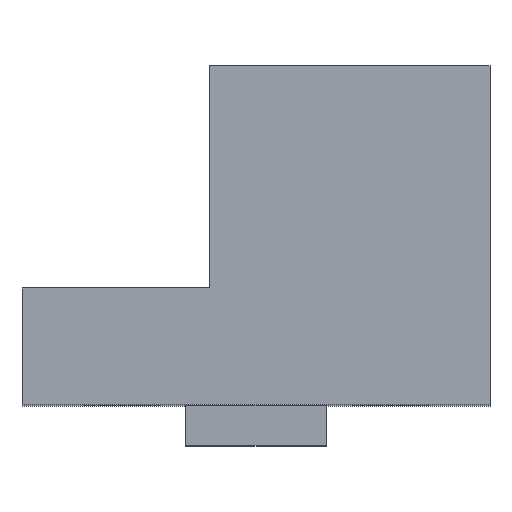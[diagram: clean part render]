
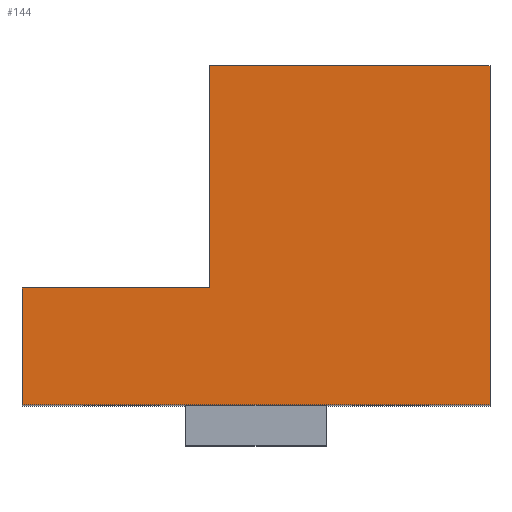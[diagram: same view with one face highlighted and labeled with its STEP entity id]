
A CAD part, top view. The second image highlights one B-rep face of the part: STEP entity #144.
In plain terms, the highlighted planar face has unit normal (0, 0, 1).
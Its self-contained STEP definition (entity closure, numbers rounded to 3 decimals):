
#72 = VERTEX_POINT ( 'NONE', #507 ) ;
#74 = EDGE_CURVE ( 'NONE', #231, #72, #506, .T. ) ;
#83 = VERTEX_POINT ( 'NONE', #464 ) ;
#85 = EDGE_CURVE ( 'NONE', #72, #83, #463, .T. ) ;
#98 = VERTEX_POINT ( 'NONE', #437 ) ;
#102 = EDGE_CURVE ( 'NONE', #83, #98, #432, .T. ) ;
#111 = VERTEX_POINT ( 'NONE', #413 ) ;
#113 = EDGE_CURVE ( 'NONE', #98, #111, #412, .T. ) ;
#142 = EDGE_CURVE ( 'NONE', #111, #234, #329, .T. ) ;
#144 = ADVANCED_FACE ( 'NONE', ( #325 ), #839, .T. ) ;
#145 = EDGE_LOOP ( 'NONE', ( #146, #147, #148, #149, #150, #161 ) ) ;
#146 = ORIENTED_EDGE ( 'NONE', *, *, #74, .T. ) ;
#147 = ORIENTED_EDGE ( 'NONE', *, *, #85, .T. ) ;
#148 = ORIENTED_EDGE ( 'NONE', *, *, #102, .T. ) ;
#149 = ORIENTED_EDGE ( 'NONE', *, *, #113, .T. ) ;
#150 = ORIENTED_EDGE ( 'NONE', *, *, #142, .T. ) ;
#161 = ORIENTED_EDGE ( 'NONE', *, *, #233, .T. ) ;
#231 = VERTEX_POINT ( 'NONE', #684 ) ;
#233 = EDGE_CURVE ( 'NONE', #234, #231, #683, .T. ) ;
#234 = VERTEX_POINT ( 'NONE', #679 ) ;
#325 = FACE_OUTER_BOUND ( 'NONE', #145, .T. ) ;
#326 = DIRECTION ( 'NONE',  ( -1., 0., 0. ) ) ;
#327 = VECTOR ( 'NONE', #326, 1000. ) ;
#328 = CARTESIAN_POINT ( 'NONE',  ( -8., 26.9, 63. ) ) ;
#329 = LINE ( 'NONE', #328, #327 ) ;
#409 = DIRECTION ( 'NONE',  ( 0., -1., 0. ) ) ;
#410 = VECTOR ( 'NONE', #409, 1000. ) ;
#411 = CARTESIAN_POINT ( 'NONE',  ( -8., 64.9, 63. ) ) ;
#412 = LINE ( 'NONE', #411, #410 ) ;
#413 = CARTESIAN_POINT ( 'NONE',  ( -8., 26.9, 63. ) ) ;
#429 = DIRECTION ( 'NONE',  ( -1., 0., 0. ) ) ;
#430 = VECTOR ( 'NONE', #429, 1000. ) ;
#431 = CARTESIAN_POINT ( 'NONE',  ( 40., 64.9, 63. ) ) ;
#432 = LINE ( 'NONE', #431, #430 ) ;
#437 = CARTESIAN_POINT ( 'NONE',  ( -8., 64.9, 63. ) ) ;
#460 = DIRECTION ( 'NONE',  ( 0., 1., 0. ) ) ;
#461 = VECTOR ( 'NONE', #460, 1000. ) ;
#462 = CARTESIAN_POINT ( 'NONE',  ( 40., 6.9, 63. ) ) ;
#463 = LINE ( 'NONE', #462, #461 ) ;
#464 = CARTESIAN_POINT ( 'NONE',  ( 40., 64.9, 63. ) ) ;
#481 = DIRECTION ( 'NONE',  ( 1., 0., 0. ) ) ;
#482 = VECTOR ( 'NONE', #481, 1000. ) ;
#483 = CARTESIAN_POINT ( 'NONE',  ( -40., 6.9, 63. ) ) ;
#506 = LINE ( 'NONE', #483, #482 ) ;
#507 = CARTESIAN_POINT ( 'NONE',  ( 40., 6.9, 63. ) ) ;
#679 = CARTESIAN_POINT ( 'NONE',  ( -40., 26.9, 63. ) ) ;
#680 = DIRECTION ( 'NONE',  ( 0., -1., 0. ) ) ;
#681 = VECTOR ( 'NONE', #680, 1000. ) ;
#682 = CARTESIAN_POINT ( 'NONE',  ( -40., 26.9, 63. ) ) ;
#683 = LINE ( 'NONE', #682, #681 ) ;
#684 = CARTESIAN_POINT ( 'NONE',  ( -40., 6.9, 63. ) ) ;
#835 = DIRECTION ( 'NONE',  ( 1., 0., 0. ) ) ;
#836 = DIRECTION ( 'NONE',  ( 0., 0., 1. ) ) ;
#837 = CARTESIAN_POINT ( 'NONE',  ( -40., 6.9, 63. ) ) ;
#838 = AXIS2_PLACEMENT_3D ( 'NONE', #837, #836, #835 ) ;
#839 = PLANE ( 'NONE',  #838 ) ;
